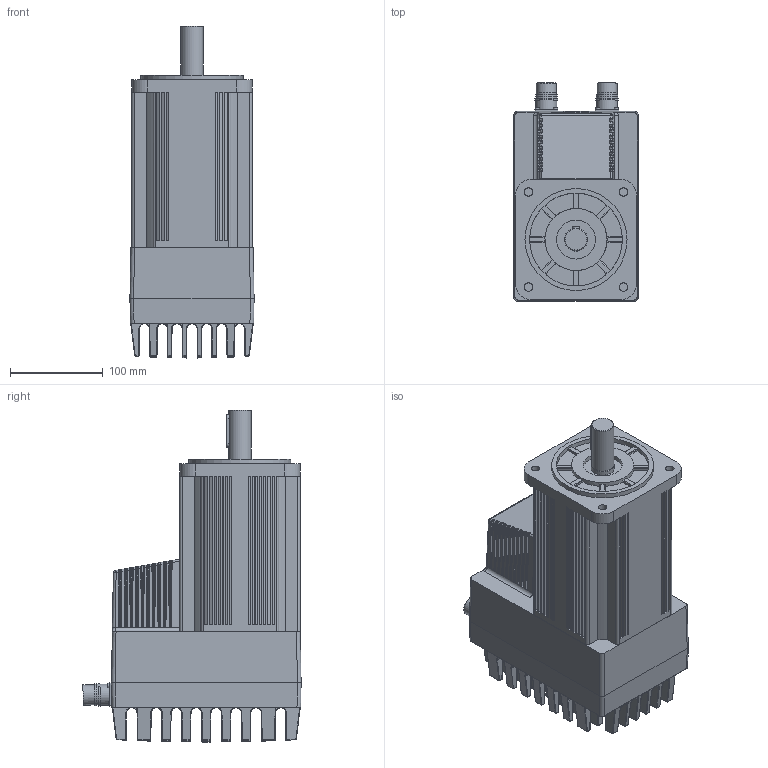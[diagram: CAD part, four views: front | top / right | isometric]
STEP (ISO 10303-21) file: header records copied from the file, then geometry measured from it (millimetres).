
FILE_DESCRIPTION( ( 'Unknown' ), '1' );
FILE_NAME( 'K:/JVL/MACxxx/BMAC/MAC1500_3000/CAD internet tegninger/STEP/Step/MAC3000-D2 V1_3.stp', 'Unknown', ( 'Unknown' ), ( 'Unknown' ), 'PSStep 11.0', 'Unknown', ' ' );
FILE_SCHEMA( ( 'AUTOMOTIVE_DESIGN { 1 0 10303 214 1 1 1 1 }' ) );
Length unit declared in the file: millimetre
Products named in the file (1): MSE3K0-00001 MAC3000D2MOTOR
Bounding box: 133.88 x 235.28 x 357.98 mm (x, y, z)
Volume: 5163971.5 mm3; surface area: 487648.6 mm2
Topology: 1 solids, 14 shells, 2425 faces, 5804 edges, 3502 vertices
Faces by surface type: cylinder 929, plane 920, bspline 280, sphere 271, torus 16, cone 9
Full cylindrical faces by diameter (mm): 2 x9, 2.013 x10, 2.459 x6, 3.242 x5, 4.3 x4, 4.5 x8, 4.6 x2, 8 x1, 9 x4, 16 x1, 18 x1, 19.8 x1, 20 x5, 21.6 x2, 22.6 x2, 22.9 x2, 23.3 x2, 24 x1, 24.5 x2, 25 x1, 35 x1, 42 x1, 57.62 x1, 67 x1, 75 x1, 100 x1, 110 x1
Entity records: 106202 total; most frequent: CARTESIAN_POINT 28352, DIRECTION 11654, ORIENTED_EDGE 11282, EDGE_CURVE 5641, AXIS2_PLACEMENT_3D 4356, VERTEX_POINT 3449, PRESENTATION_STYLE_ASSIGNMENT 3180, COLOUR_RGB 3180
